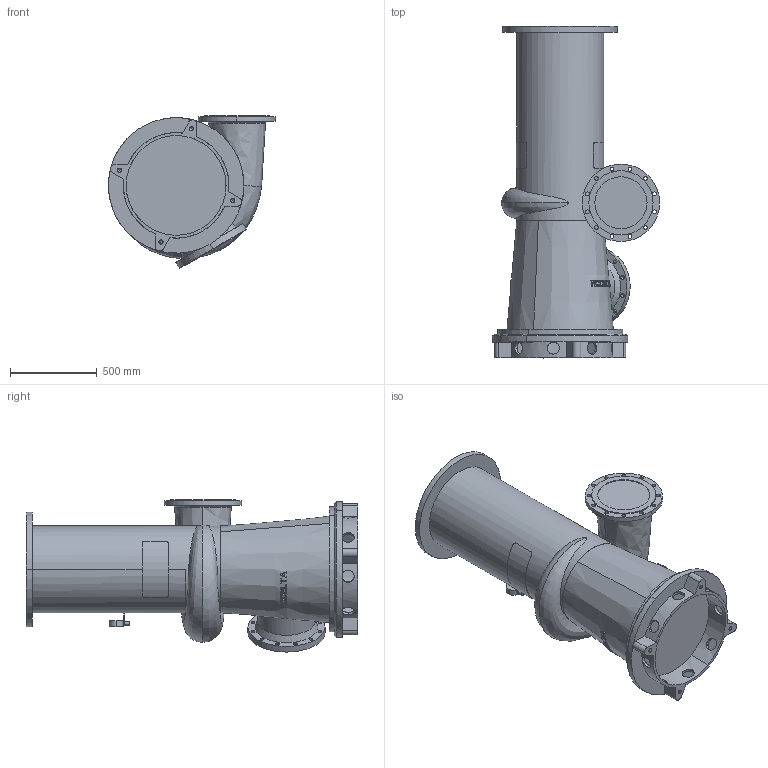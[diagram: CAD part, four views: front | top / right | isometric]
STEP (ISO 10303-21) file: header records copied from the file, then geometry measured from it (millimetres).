
FILE_DESCRIPTION((''),'2;1');
FILE_NAME('12-510_ASM','2024-08-05T',('Lyritlocal'),(''),'PRO/ENGINEER BY PARAMETRIC TECHNOLOGY CORPORATION, 2016360','PRO/ENGINEER BY PARAMETRIC TECHNOLOGY CORPORATION, 2016360','');
FILE_SCHEMA(('CONFIG_CONTROL_DESIGN'));
Length unit declared in the file: millimetre
Products named in the file (3): 12-510; 12-510_VOET; 12-510_ASM
Assembly tree (2 placements, depth 2):
  12-510_ASM
    12-510
    12-510_VOET
Bounding box: 962.5 x 1910 x 875.85 mm (x, y, z)
Volume: 485964673.1 mm3; surface area: 6451901.8 mm2
Topology: 2 solids, 6 shells, 503 faces, 1366 edges, 900 vertices
Faces by surface type: plane 323, cylinder 138, cone 36, bspline 6
Entity records: 18234 total; most frequent: CARTESIAN_POINT 5945, ORIENTED_EDGE 2700, DIRECTION 2279, EDGE_CURVE 1358, VERTEX_POINT 900, AXIS2_PLACEMENT_3D 896, EDGE_LOOP 608, FACE_OUTER_BOUND 503
